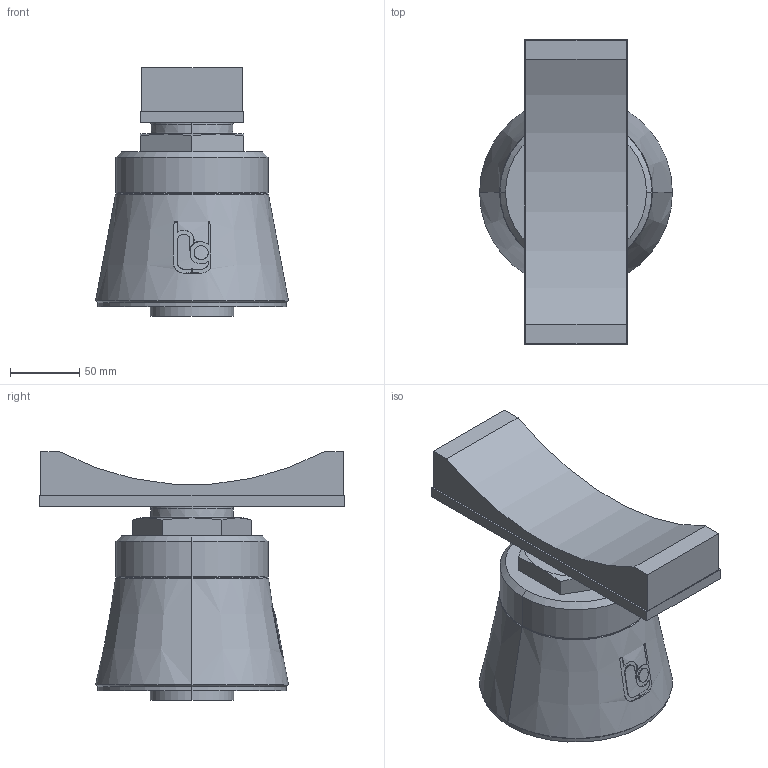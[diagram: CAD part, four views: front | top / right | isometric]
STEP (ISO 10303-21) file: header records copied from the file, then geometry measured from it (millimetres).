
FILE_DESCRIPTION(('STEP AP214'),'1');
FILE_NAME('RSRFS2_DN400.stp','2018-07-02T06:19:57',(' '),(' '),'Spatial InterOp 3D',' ',' ');
FILE_SCHEMA(('automotive_design'));
Length unit declared in the file: millimetre
Products named in the file (7): 1; 2; 3; 4; 5; 6; 7
Bounding box: 139.44 x 220 x 180 mm (x, y, z)
Volume: 2222452.2 mm3; surface area: 284825.3 mm2
Topology: 7 solids, 7 shells, 143 faces, 349 edges, 224 vertices
Faces by surface type: plane 61, cylinder 41, cone 33, torus 8
Entity records: 6043 total; most frequent: CARTESIAN_POINT 1358, DIRECTION 735, ORIENTED_EDGE 698, EDGE_CURVE 349, AXIS2_PLACEMENT_3D 285, VERTEX_POINT 224, LINE 165, VECTOR 165
